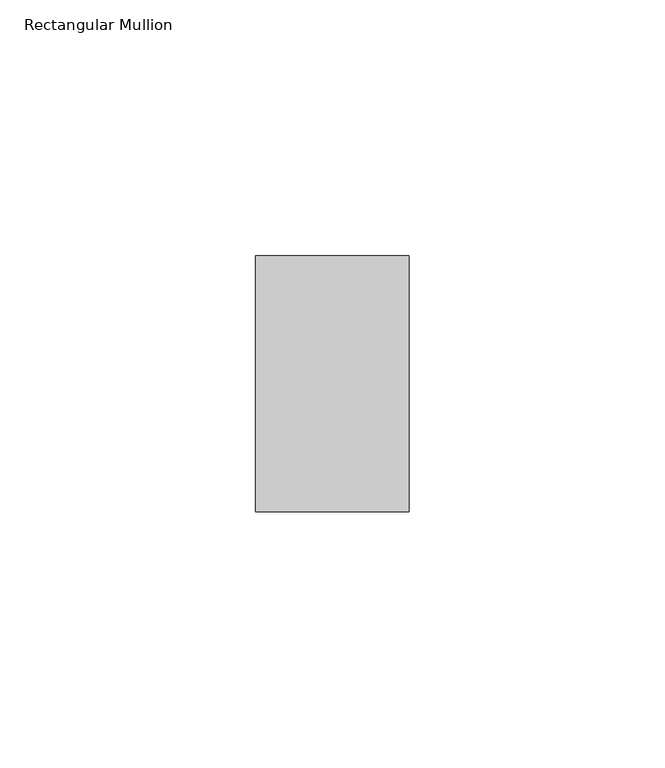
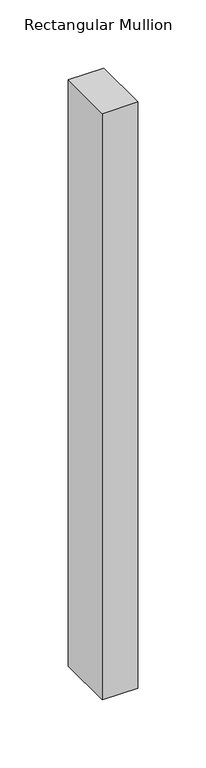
"""IFC4 building model written with IfcOpenShell, lengths in millimetres: member geometry, Rectangular Mullion : ARQ_TV_MULL_50x30mm."""

from ifc_helpers import new_model, si_unit, frame, origin, place, context, project, spatial, polyline, outline, extrude, source, transform, mapped, element, save


def rectangular_mullion_fd73bc33(model_context):
    return source(origin(), model_context, "Body", "SweptSolid", [
        extrude(outline(polyline([(15.0, 25.0), (15.0, -25.0), (-15.0, -25.0), (-15.0, 25.0), (15.0, 25.0)])), frame((0.0, 0.0, -525.0), z_axis=(0.0, 0.0, 1.0), x_axis=(1.0, 0.0, 0.0)), (0.0, 0.0, 1.0), 525.0),
    ])


if __name__ == "__main__":
    model = new_model("IFC4")
    model_context = context("Model", 3, world=origin())
    ifc_project = project(units=[si_unit("LENGTHUNIT", "METRE", prefix="MILLI")], contexts=[model_context])
    site = spatial("IfcSite", under=ifc_project)
    building = spatial("IfcBuilding", under=site)
    placement = place(None, origin())
    rectangular_mullion_shape = rectangular_mullion_fd73bc33(model_context)
    element("IfcMember", 1, ObjectType="Rectangular Mullion : ARQ_TV_MULL_50x30mm", at=placement, inside=building, context=model_context, shape_type="MappedRepresentation", body=[
        mapped(rectangular_mullion_shape, transform((0.0, 0.0, 0.0), x_axis=(1.0, 0.0, 0.0), y_axis=(0.0, 1.0, 0.0), z_axis=(0.0, 0.0, 1.0))),
    ])
    save(model, "model.ifc")
